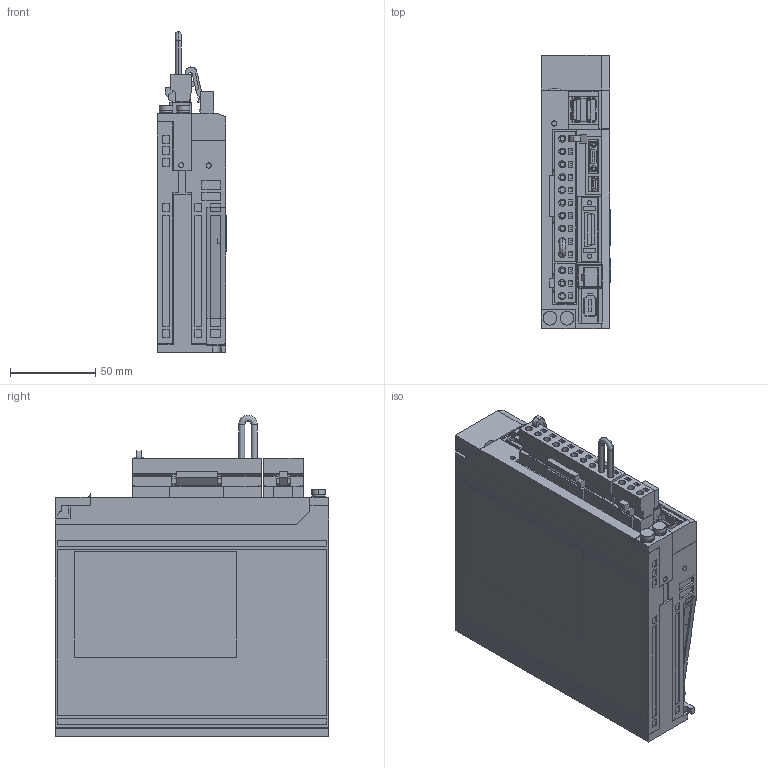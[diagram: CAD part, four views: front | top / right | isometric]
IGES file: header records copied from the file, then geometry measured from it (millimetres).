
Start section: SolidWorks IGES file using analytic representation for surfaces
Global section: file name: C:\YASKAWA\sgdv_1r6a1_a.IGS; native system: SolidWorks 2006 by SolidWorks Corporation; preprocessor: SolidWorks 2006 by SolidWorks Corporation; author: yamanouchi; date: 080617.172008; units: millimetre
Bounding box: 40.5 x 160 x 188 mm (x, y, z)
Surface area: 134655.7 mm2 (no closed solid volume)
Topology: 0 solids, 0 shells, 1839 faces, 13979 edges, 13979 vertices
Faces by surface type: bspline 1659, revolution 180
